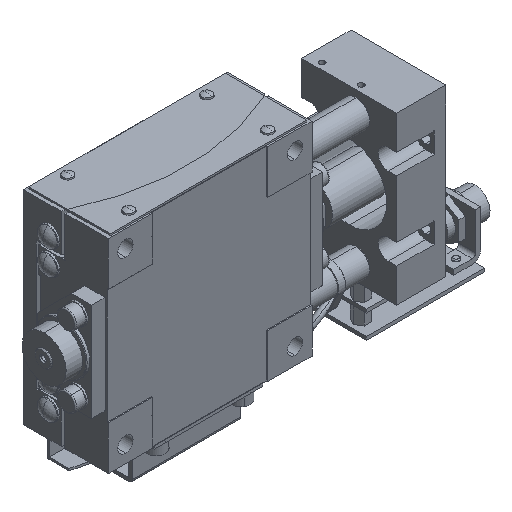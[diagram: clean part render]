
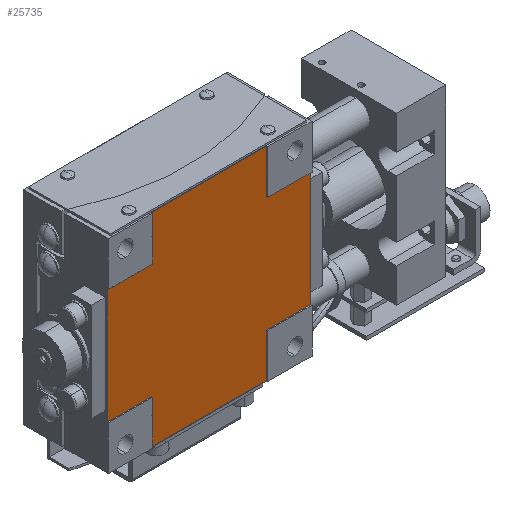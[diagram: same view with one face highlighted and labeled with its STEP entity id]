
A CAD part, isometric view. The second image highlights one B-rep face of the part: STEP entity #25735.
In plain terms, the highlighted planar face has unit normal (0, -1, 0).
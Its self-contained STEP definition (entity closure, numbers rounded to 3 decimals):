
#504 = LINE ( 'NONE', #21357, #20677 ) ;
#729 = EDGE_CURVE ( 'NONE', #7764, #17324, #19421, .T. ) ;
#928 = CARTESIAN_POINT ( 'NONE',  ( 17., 0.3, 17. ) ) ;
#1618 = CARTESIAN_POINT ( 'NONE',  ( 17., 0.3, -30. ) ) ;
#1637 = ORIENTED_EDGE ( 'NONE', *, *, #10470, .T. ) ;
#1855 = CARTESIAN_POINT ( 'NONE',  ( 17., 0.3, -17. ) ) ;
#1884 = CARTESIAN_POINT ( 'NONE',  ( -17., 0.3, 30. ) ) ;
#1959 = CARTESIAN_POINT ( 'NONE',  ( -30., 0.3, -17. ) ) ;
#2128 = CARTESIAN_POINT ( 'NONE',  ( -17., 0.3, -17. ) ) ;
#2419 = ORIENTED_EDGE ( 'NONE', *, *, #5689, .T. ) ;
#3010 = EDGE_LOOP ( 'NONE', ( #1637, #23151, #6580, #11970, #7371, #12031, #18756, #2419, #14095, #8786, #13913, #6636 ) ) ;
#3139 = DIRECTION ( 'NONE',  ( 0., 0., -1. ) ) ;
#3271 = VECTOR ( 'NONE', #20432, 1000. ) ;
#4015 = DIRECTION ( 'NONE',  ( 0., 0., -1. ) ) ;
#4029 = CARTESIAN_POINT ( 'NONE',  ( -17., 0.3, 17. ) ) ;
#4152 = VECTOR ( 'NONE', #23951, 1000. ) ;
#4338 = VERTEX_POINT ( 'NONE', #1618 ) ;
#4388 = VERTEX_POINT ( 'NONE', #20277 ) ;
#5241 = VERTEX_POINT ( 'NONE', #7033 ) ;
#5384 = VECTOR ( 'NONE', #14744, 1000. ) ;
#5689 = EDGE_CURVE ( 'NONE', #17670, #24392, #8693, .T. ) ;
#6485 = CARTESIAN_POINT ( 'NONE',  ( -30., 0.3, 17. ) ) ;
#6580 = ORIENTED_EDGE ( 'NONE', *, *, #21570, .T. ) ;
#6584 = CARTESIAN_POINT ( 'NONE',  ( -17., 0.3, 30. ) ) ;
#6636 = ORIENTED_EDGE ( 'NONE', *, *, #23268, .T. ) ;
#6695 = LINE ( 'NONE', #12282, #11553 ) ;
#7033 = CARTESIAN_POINT ( 'NONE',  ( 30., 0.3, -17. ) ) ;
#7157 = VECTOR ( 'NONE', #17445, 1000. ) ;
#7371 = ORIENTED_EDGE ( 'NONE', *, *, #12518, .T. ) ;
#7596 = CARTESIAN_POINT ( 'NONE',  ( -17., 0.3, -30. ) ) ;
#7618 = VERTEX_POINT ( 'NONE', #22235 ) ;
#7764 = VERTEX_POINT ( 'NONE', #2128 ) ;
#8253 = LINE ( 'NONE', #6485, #13451 ) ;
#8542 = FACE_OUTER_BOUND ( 'NONE', #3010, .T. ) ;
#8693 = LINE ( 'NONE', #22813, #13224 ) ;
#8786 = ORIENTED_EDGE ( 'NONE', *, *, #729, .T. ) ;
#9779 = LINE ( 'NONE', #1884, #15967 ) ;
#9807 = LINE ( 'NONE', #14526, #16635 ) ;
#10470 = EDGE_CURVE ( 'NONE', #15758, #5241, #12345, .T. ) ;
#10537 = VERTEX_POINT ( 'NONE', #4029 ) ;
#11236 = CARTESIAN_POINT ( 'NONE',  ( 0., 0.3, 0. ) ) ;
#11405 = CARTESIAN_POINT ( 'NONE',  ( -17., 0.3, -30. ) ) ;
#11553 = VECTOR ( 'NONE', #21052, 1000. ) ;
#11970 = ORIENTED_EDGE ( 'NONE', *, *, #22801, .T. ) ;
#11992 = LINE ( 'NONE', #19730, #7157 ) ;
#12031 = ORIENTED_EDGE ( 'NONE', *, *, #26967, .T. ) ;
#12282 = CARTESIAN_POINT ( 'NONE',  ( -17., 0.3, -30. ) ) ;
#12322 = DIRECTION ( 'NONE',  ( 0., 0., 1. ) ) ;
#12345 = LINE ( 'NONE', #1855, #3271 ) ;
#12415 = VERTEX_POINT ( 'NONE', #26442 ) ;
#12518 = EDGE_CURVE ( 'NONE', #4388, #21299, #9779, .T. ) ;
#13184 = VECTOR ( 'NONE', #12322, 1000. ) ;
#13224 = VECTOR ( 'NONE', #3139, 1000. ) ;
#13414 = PLANE ( 'NONE',  #22573 ) ;
#13451 = VECTOR ( 'NONE', #24929, 1000. ) ;
#13913 = ORIENTED_EDGE ( 'NONE', *, *, #22327, .T. ) ;
#14095 = ORIENTED_EDGE ( 'NONE', *, *, #15979, .T. ) ;
#14526 = CARTESIAN_POINT ( 'NONE',  ( -17., 0.3, 17. ) ) ;
#14744 = DIRECTION ( 'NONE',  ( 1., 0., 0. ) ) ;
#14777 = VECTOR ( 'NONE', #19659, 1000. ) ;
#15632 = EDGE_CURVE ( 'NONE', #5241, #12415, #18753, .T. ) ;
#15746 = CARTESIAN_POINT ( 'NONE',  ( -30., 0.3, -17. ) ) ;
#15758 = VERTEX_POINT ( 'NONE', #25069 ) ;
#15967 = VECTOR ( 'NONE', #16505, 1000. ) ;
#15979 = EDGE_CURVE ( 'NONE', #24392, #7764, #17066, .T. ) ;
#16505 = DIRECTION ( 'NONE',  ( -1., 0., 0. ) ) ;
#16635 = VECTOR ( 'NONE', #4015, 1000. ) ;
#17066 = LINE ( 'NONE', #1959, #5384 ) ;
#17324 = VERTEX_POINT ( 'NONE', #11405 ) ;
#17445 = DIRECTION ( 'NONE',  ( -1., 0., 0. ) ) ;
#17670 = VERTEX_POINT ( 'NONE', #21406 ) ;
#18753 = LINE ( 'NONE', #20660, #13184 ) ;
#18756 = ORIENTED_EDGE ( 'NONE', *, *, #24059, .T. ) ;
#19421 = LINE ( 'NONE', #7596, #4152 ) ;
#19537 = DIRECTION ( 'NONE',  ( 0., 0., 1. ) ) ;
#19659 = DIRECTION ( 'NONE',  ( 0., 0., 1. ) ) ;
#19730 = CARTESIAN_POINT ( 'NONE',  ( 17., 0.3, 17. ) ) ;
#20277 = CARTESIAN_POINT ( 'NONE',  ( 17., 0.3, 30. ) ) ;
#20432 = DIRECTION ( 'NONE',  ( 1., 0., 0. ) ) ;
#20660 = CARTESIAN_POINT ( 'NONE',  ( 30., 0.3, 17. ) ) ;
#20677 = VECTOR ( 'NONE', #19537, 1000. ) ;
#20704 = LINE ( 'NONE', #928, #14777 ) ;
#21052 = DIRECTION ( 'NONE',  ( 1., 0., 0. ) ) ;
#21299 = VERTEX_POINT ( 'NONE', #6584 ) ;
#21357 = CARTESIAN_POINT ( 'NONE',  ( 17., 0.3, -30. ) ) ;
#21406 = CARTESIAN_POINT ( 'NONE',  ( -30., 0.3, 17. ) ) ;
#21570 = EDGE_CURVE ( 'NONE', #12415, #7618, #11992, .T. ) ;
#22235 = CARTESIAN_POINT ( 'NONE',  ( 17., 0.3, 17. ) ) ;
#22327 = EDGE_CURVE ( 'NONE', #17324, #4338, #6695, .T. ) ;
#22573 = AXIS2_PLACEMENT_3D ( 'NONE', #11236, #25806, #25631 ) ;
#22801 = EDGE_CURVE ( 'NONE', #7618, #4388, #20704, .T. ) ;
#22813 = CARTESIAN_POINT ( 'NONE',  ( -30., 0.3, 17. ) ) ;
#23151 = ORIENTED_EDGE ( 'NONE', *, *, #15632, .T. ) ;
#23268 = EDGE_CURVE ( 'NONE', #4338, #15758, #504, .T. ) ;
#23951 = DIRECTION ( 'NONE',  ( 0., 0., -1. ) ) ;
#24059 = EDGE_CURVE ( 'NONE', #10537, #17670, #8253, .T. ) ;
#24392 = VERTEX_POINT ( 'NONE', #15746 ) ;
#24929 = DIRECTION ( 'NONE',  ( -1., 0., 0. ) ) ;
#25069 = CARTESIAN_POINT ( 'NONE',  ( 17., 0.3, -17. ) ) ;
#25631 = DIRECTION ( 'NONE',  ( -1., 0., 0. ) ) ;
#25735 = ADVANCED_FACE ( 'NONE', ( #8542 ), #13414, .F. ) ;
#25806 = DIRECTION ( 'NONE',  ( 0., 1., 0. ) ) ;
#26442 = CARTESIAN_POINT ( 'NONE',  ( 30., 0.3, 17. ) ) ;
#26967 = EDGE_CURVE ( 'NONE', #21299, #10537, #9807, .T. ) ;
